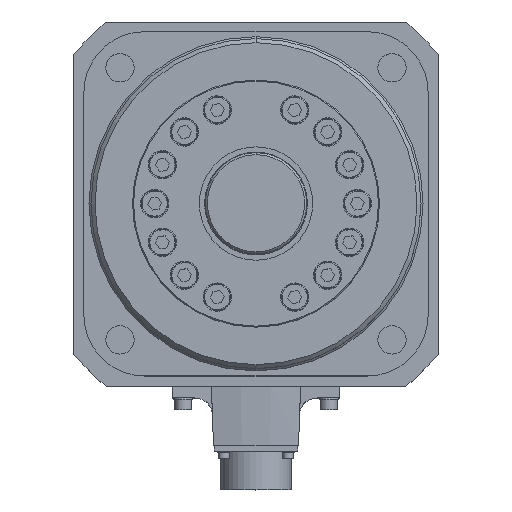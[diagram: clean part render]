
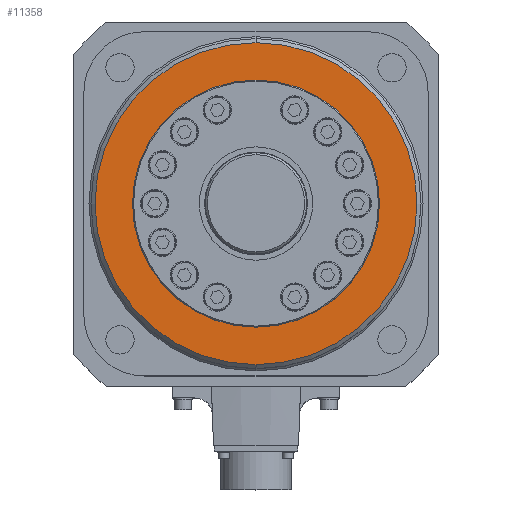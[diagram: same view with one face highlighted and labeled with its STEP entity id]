
A CAD part, top view. The second image highlights one B-rep face of the part: STEP entity #11358.
In plain terms, the highlighted planar face has unit normal (0, 0, 1).
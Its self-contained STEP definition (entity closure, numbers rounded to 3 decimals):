
#384=CARTESIAN_POINT('',(0.,0.,51.));
#385=DIRECTION('',(0.,0.,-1.));
#386=DIRECTION('',(0.,1.,0.));
#387=AXIS2_PLACEMENT_3D('',#384,#385,#386);
#389=CARTESIAN_POINT('',(0.,0.,51.));
#390=DIRECTION('',(0.,0.,-1.));
#391=DIRECTION('',(0.,-1.,0.));
#392=AXIS2_PLACEMENT_3D('',#389,#390,#391);
#394=CARTESIAN_POINT('',(0.,0.,51.));
#395=DIRECTION('',(0.,0.,1.));
#396=DIRECTION('',(0.,-1.,0.));
#397=AXIS2_PLACEMENT_3D('',#394,#395,#396);
#399=CARTESIAN_POINT('',(0.,0.,51.));
#400=DIRECTION('',(0.,0.,1.));
#401=DIRECTION('',(0.,1.,0.));
#402=AXIS2_PLACEMENT_3D('',#399,#400,#401);
#8539=CARTESIAN_POINT('',(0.,61.,51.));
#8540=VERTEX_POINT('',#8539);
#8541=CARTESIAN_POINT('',(0.,-61.,51.));
#8542=VERTEX_POINT('',#8541);
#8543=CARTESIAN_POINT('',(0.,79.5,51.));
#8544=CARTESIAN_POINT('',(0.,-79.5,51.));
#8545=VERTEX_POINT('',#8543);
#8546=VERTEX_POINT('',#8544);
#11343=CARTESIAN_POINT('',(0.,0.,51.));
#11344=DIRECTION('',(0.,0.,1.));
#11345=DIRECTION('',(0.,-1.,0.));
#11346=AXIS2_PLACEMENT_3D('',#11343,#11344,#11345);
#11347=PLANE('',#11346);
#11349=ORIENTED_EDGE('',*,*,#11348,.T.);
#11351=ORIENTED_EDGE('',*,*,#11350,.T.);
#11352=EDGE_LOOP('',(#11349,#11351));
#11353=FACE_OUTER_BOUND('',#11352,.F.);
#11354=ORIENTED_EDGE('',*,*,#11336,.T.);
#11355=ORIENTED_EDGE('',*,*,#11325,.T.);
#11356=EDGE_LOOP('',(#11354,#11355));
#11357=FACE_BOUND('',#11356,.F.);
#11358=ADVANCED_FACE('',(#11353,#11357),#11347,.T.);
#388=CIRCLE('',#387,79.5);
#393=CIRCLE('',#392,79.5);
#398=CIRCLE('',#397,61.);
#403=CIRCLE('',#402,61.);
#11325=EDGE_CURVE('',#8540,#8542,#403,.T.);
#11336=EDGE_CURVE('',#8542,#8540,#398,.T.);
#11348=EDGE_CURVE('',#8545,#8546,#388,.T.);
#11350=EDGE_CURVE('',#8546,#8545,#393,.T.);
